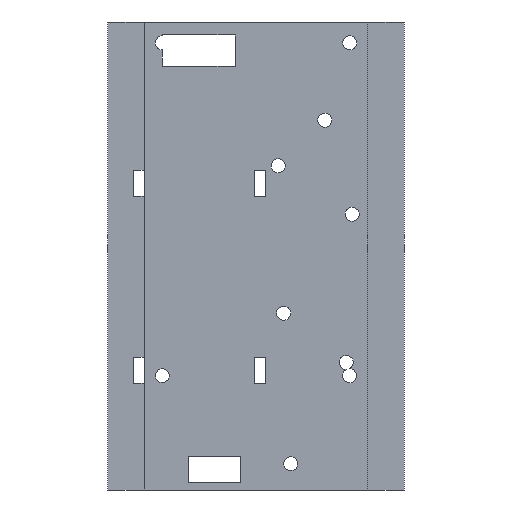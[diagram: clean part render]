
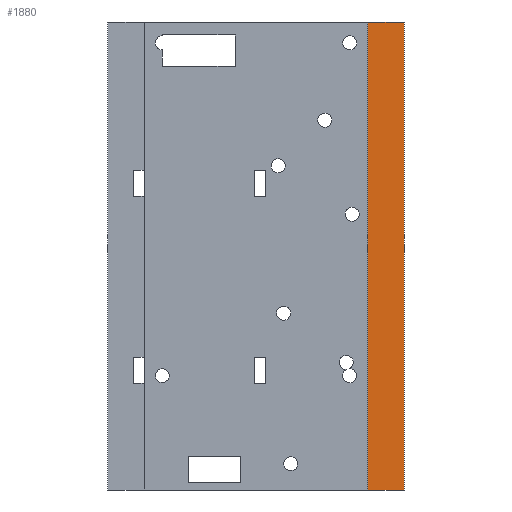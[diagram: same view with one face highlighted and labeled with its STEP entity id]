
A CAD part, front view. The second image highlights one B-rep face of the part: STEP entity #1880.
In plain terms, the highlighted planar face has unit normal (0, -1, 0).
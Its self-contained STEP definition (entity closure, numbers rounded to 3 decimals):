
#22 = VERTEX_POINT('',#23);
#23 = CARTESIAN_POINT('',(21.5,-3.5,97.));
#32 = PLANE('',#33);
#33 = AXIS2_PLACEMENT_3D('',#34,#35,#36);
#34 = CARTESIAN_POINT('',(21.5,-3.5,7.));
#35 = DIRECTION('',(1.,0.,0.));
#36 = DIRECTION('',(0.,0.,1.));
#44 = PLANE('',#45);
#45 = AXIS2_PLACEMENT_3D('',#46,#47,#48);
#46 = CARTESIAN_POINT('',(21.5,-3.5,97.));
#47 = DIRECTION('',(0.,0.,1.));
#48 = DIRECTION('',(1.,0.,0.));
#56 = EDGE_CURVE('',#57,#22,#59,.T.);
#57 = VERTEX_POINT('',#58);
#58 = CARTESIAN_POINT('',(21.5,-3.5,7.));
#59 = SURFACE_CURVE('',#60,(#64,#71),.PCURVE_S1.);
#60 = LINE('',#61,#62);
#61 = CARTESIAN_POINT('',(21.5,-3.5,7.));
#62 = VECTOR('',#63,1.);
#63 = DIRECTION('',(0.,0.,1.));
#64 = PCURVE('',#32,#65);
#65 = DEFINITIONAL_REPRESENTATION('',(#66),#70);
#66 = LINE('',#67,#68);
#67 = CARTESIAN_POINT('',(0.,0.));
#68 = VECTOR('',#69,1.);
#69 = DIRECTION('',(1.,0.));
#70 = ( GEOMETRIC_REPRESENTATION_CONTEXT(2) 
PARAMETRIC_REPRESENTATION_CONTEXT() REPRESENTATION_CONTEXT('2D SPACE',''
  ) );
#71 = PCURVE('',#72,#77);
#72 = PLANE('',#73);
#73 = AXIS2_PLACEMENT_3D('',#74,#75,#76);
#74 = CARTESIAN_POINT('',(21.5,-3.5,7.));
#75 = DIRECTION('',(0.,1.,0.));
#76 = DIRECTION('',(0.,0.,1.));
#77 = DEFINITIONAL_REPRESENTATION('',(#78),#82);
#78 = LINE('',#79,#80);
#79 = CARTESIAN_POINT('',(0.,0.));
#80 = VECTOR('',#81,1.);
#81 = DIRECTION('',(1.,0.));
#82 = ( GEOMETRIC_REPRESENTATION_CONTEXT(2) 
PARAMETRIC_REPRESENTATION_CONTEXT() REPRESENTATION_CONTEXT('2D SPACE',''
  ) );
#100 = PLANE('',#101);
#101 = AXIS2_PLACEMENT_3D('',#102,#103,#104);
#102 = CARTESIAN_POINT('',(21.5,-3.5,7.));
#103 = DIRECTION('',(0.,0.,1.));
#104 = DIRECTION('',(1.,0.,0.));
#142 = EDGE_CURVE('',#22,#143,#145,.T.);
#143 = VERTEX_POINT('',#144);
#144 = CARTESIAN_POINT('',(28.5,-3.5,97.));
#145 = SURFACE_CURVE('',#146,(#150,#157),.PCURVE_S1.);
#146 = LINE('',#147,#148);
#147 = CARTESIAN_POINT('',(21.5,-3.5,97.));
#148 = VECTOR('',#149,1.);
#149 = DIRECTION('',(1.,0.,0.));
#150 = PCURVE('',#44,#151);
#151 = DEFINITIONAL_REPRESENTATION('',(#152),#156);
#152 = LINE('',#153,#154);
#153 = CARTESIAN_POINT('',(0.,0.));
#154 = VECTOR('',#155,1.);
#155 = DIRECTION('',(1.,0.));
#156 = ( GEOMETRIC_REPRESENTATION_CONTEXT(2) 
PARAMETRIC_REPRESENTATION_CONTEXT() REPRESENTATION_CONTEXT('2D SPACE',''
  ) );
#157 = PCURVE('',#72,#158);
#158 = DEFINITIONAL_REPRESENTATION('',(#159),#163);
#159 = LINE('',#160,#161);
#160 = CARTESIAN_POINT('',(90.,0.));
#161 = VECTOR('',#162,1.);
#162 = DIRECTION('',(0.,1.));
#163 = ( GEOMETRIC_REPRESENTATION_CONTEXT(2) 
PARAMETRIC_REPRESENTATION_CONTEXT() REPRESENTATION_CONTEXT('2D SPACE',''
  ) );
#181 = PLANE('',#182);
#182 = AXIS2_PLACEMENT_3D('',#183,#184,#185);
#183 = CARTESIAN_POINT('',(28.5,-3.5,7.));
#184 = DIRECTION('',(1.,0.,0.));
#185 = DIRECTION('',(0.,0.,1.));
#1587 = EDGE_CURVE('',#57,#1588,#1590,.T.);
#1588 = VERTEX_POINT('',#1589);
#1589 = CARTESIAN_POINT('',(28.5,-3.5,7.));
#1590 = SURFACE_CURVE('',#1591,(#1595,#1602),.PCURVE_S1.);
#1591 = LINE('',#1592,#1593);
#1592 = CARTESIAN_POINT('',(21.5,-3.5,7.));
#1593 = VECTOR('',#1594,1.);
#1594 = DIRECTION('',(1.,0.,0.));
#1595 = PCURVE('',#100,#1596);
#1596 = DEFINITIONAL_REPRESENTATION('',(#1597),#1601);
#1597 = LINE('',#1598,#1599);
#1598 = CARTESIAN_POINT('',(0.,0.));
#1599 = VECTOR('',#1600,1.);
#1600 = DIRECTION('',(1.,0.));
#1601 = ( GEOMETRIC_REPRESENTATION_CONTEXT(2) 
PARAMETRIC_REPRESENTATION_CONTEXT() REPRESENTATION_CONTEXT('2D SPACE',''
  ) );
#1602 = PCURVE('',#72,#1603);
#1603 = DEFINITIONAL_REPRESENTATION('',(#1604),#1608);
#1604 = LINE('',#1605,#1606);
#1605 = CARTESIAN_POINT('',(0.,0.));
#1606 = VECTOR('',#1607,1.);
#1607 = DIRECTION('',(0.,1.));
#1608 = ( GEOMETRIC_REPRESENTATION_CONTEXT(2) 
PARAMETRIC_REPRESENTATION_CONTEXT() REPRESENTATION_CONTEXT('2D SPACE',''
  ) );
#1880 = ADVANCED_FACE('',(#1881),#72,.F.);
#1881 = FACE_BOUND('',#1882,.F.);
#1882 = EDGE_LOOP('',(#1883,#1884,#1885,#1886));
#1883 = ORIENTED_EDGE('',*,*,#1587,.F.);
#1884 = ORIENTED_EDGE('',*,*,#56,.T.);
#1885 = ORIENTED_EDGE('',*,*,#142,.T.);
#1886 = ORIENTED_EDGE('',*,*,#1887,.F.);
#1887 = EDGE_CURVE('',#1588,#143,#1888,.T.);
#1888 = SURFACE_CURVE('',#1889,(#1893,#1900),.PCURVE_S1.);
#1889 = LINE('',#1890,#1891);
#1890 = CARTESIAN_POINT('',(28.5,-3.5,7.));
#1891 = VECTOR('',#1892,1.);
#1892 = DIRECTION('',(0.,0.,1.));
#1893 = PCURVE('',#72,#1894);
#1894 = DEFINITIONAL_REPRESENTATION('',(#1895),#1899);
#1895 = LINE('',#1896,#1897);
#1896 = CARTESIAN_POINT('',(0.,7.));
#1897 = VECTOR('',#1898,1.);
#1898 = DIRECTION('',(1.,0.));
#1899 = ( GEOMETRIC_REPRESENTATION_CONTEXT(2) 
PARAMETRIC_REPRESENTATION_CONTEXT() REPRESENTATION_CONTEXT('2D SPACE',''
  ) );
#1900 = PCURVE('',#181,#1901);
#1901 = DEFINITIONAL_REPRESENTATION('',(#1902),#1906);
#1902 = LINE('',#1903,#1904);
#1903 = CARTESIAN_POINT('',(0.,0.));
#1904 = VECTOR('',#1905,1.);
#1905 = DIRECTION('',(1.,0.));
#1906 = ( GEOMETRIC_REPRESENTATION_CONTEXT(2) 
PARAMETRIC_REPRESENTATION_CONTEXT() REPRESENTATION_CONTEXT('2D SPACE',''
  ) );
